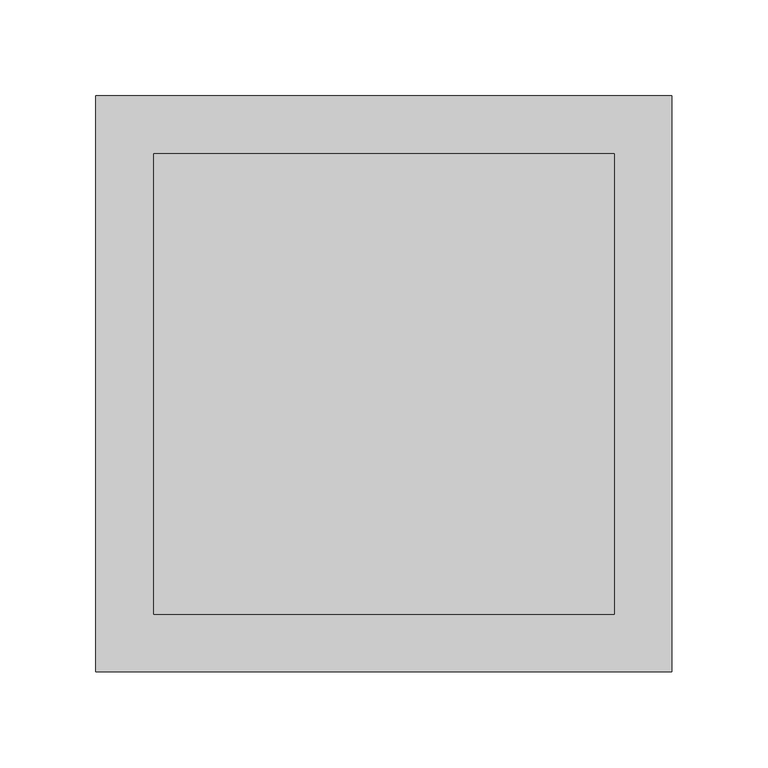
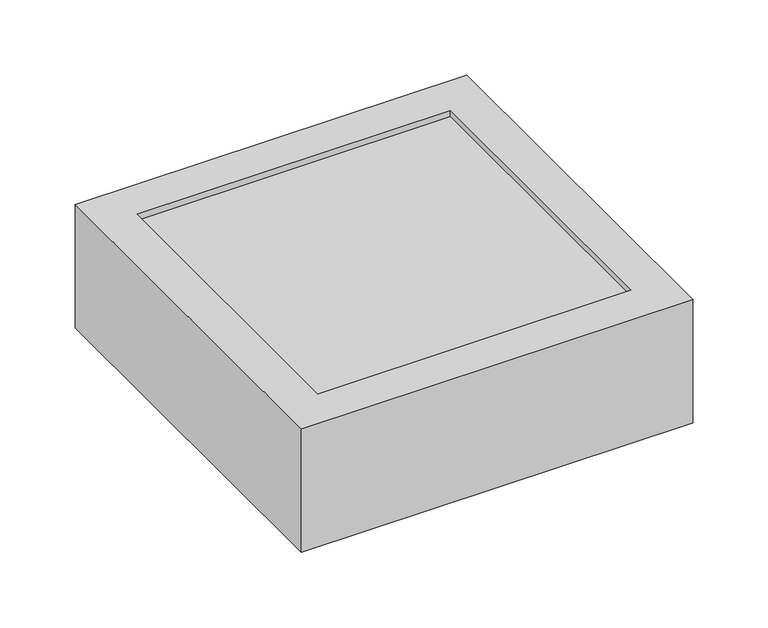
"""IFC4 building model written with IfcOpenShell, lengths in millimetres: flow terminal geometry, Kontrollschacht : Kontrollschacht."""

from ifc_helpers import new_model, si_unit, frame, origin, place, context, project, spatial, polyline, outline, extrude, source, transform, mapped, element, save


def flow_terminal_9764207f(model_context):
    return source(origin(), model_context, "Body", "SweptSolid", [
        extrude(outline(polyline([(120.0, -120.0), (-120.0, -120.0), (-120.0, 120.0), (120.0, 120.0), (120.0, -120.0)])), frame((0.0, 0.0, -15.0), z_axis=(0.0, 0.0, 1.0), x_axis=(1.0, 0.0, 0.0)), (0.0, 0.0, 1.0), 10.0),
        extrude(outline(polyline([(120.0, -120.0), (-120.0, -120.0), (-120.0, 120.0), (120.0, 120.0), (120.0, -120.0)])), frame((0.0, 0.0, -100.0), z_axis=(0.0, 0.0, 1.0), x_axis=(1.0, 0.0, 0.0)), (0.0, 0.0, 1.0), 20.0),
        extrude(outline(polyline([(150.0, -150.0), (-150.0, -150.0), (-150.0, 150.0), (150.0, 150.0), (150.0, -150.0)]), holes=[polyline([(120.0, -120.0), (120.0, 120.0), (-120.0, 120.0), (-120.0, -120.0), (120.0, -120.0)])]), frame((0.0, 0.0, -100.0), z_axis=(0.0, 0.0, 1.0), x_axis=(1.0, 0.0, 0.0)), (0.0, 0.0, 1.0), 100.0),
    ])


if __name__ == "__main__":
    model = new_model("IFC4")
    model_context = context("Model", 3, world=origin())
    ifc_project = project(units=[si_unit("LENGTHUNIT", "METRE", prefix="MILLI")], contexts=[model_context])
    site = spatial("IfcSite", under=ifc_project)
    building = spatial("IfcBuilding", under=site)
    placement = place(None, origin())
    flow_terminal_shape = flow_terminal_9764207f(model_context)
    element("IfcFlowTerminal", 1, ObjectType="Kontrollschacht : Kontrollschacht", at=placement, inside=building, context=model_context, shape_type="MappedRepresentation", body=[
        mapped(flow_terminal_shape, transform((0.0, 0.0, 0.0), x_axis=(1.0, 0.0, 0.0), y_axis=(0.0, 1.0, 0.0), z_axis=(0.0, 0.0, 1.0))),
    ])
    save(model, "model.ifc")
